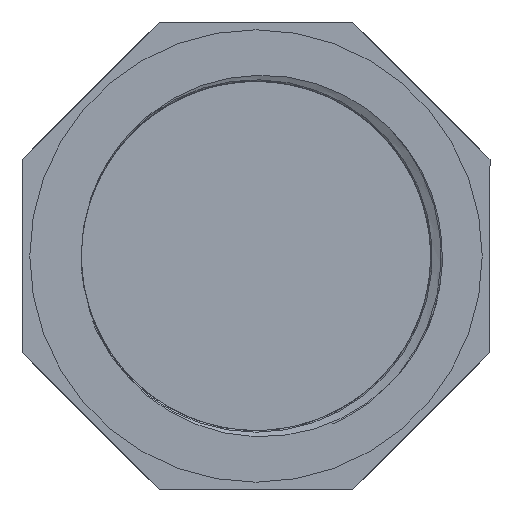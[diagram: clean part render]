
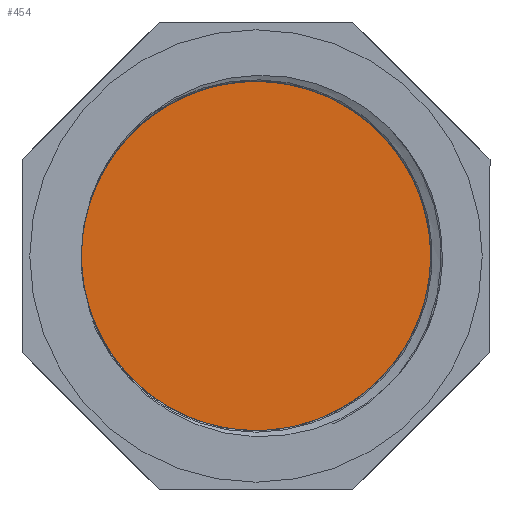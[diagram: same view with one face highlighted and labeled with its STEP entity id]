
A CAD part, front view. The second image highlights one B-rep face of the part: STEP entity #454.
In plain terms, the highlighted planar face has unit normal (0, -1, 0).
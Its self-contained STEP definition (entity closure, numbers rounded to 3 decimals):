
#26=PLANE('',#485);
#123=FACE_OUTER_BOUND('',#154,.T.);
#154=EDGE_LOOP('',(#344));
#184=CIRCLE('',#484,22.423);
#220=VERTEX_POINT('',#4059);
#267=EDGE_CURVE('',#220,#220,#184,.T.);
#344=ORIENTED_EDGE('',*,*,#267,.F.);
#454=ADVANCED_FACE('',(#123),#26,.F.);
#484=AXIS2_PLACEMENT_3D('',#4060,#535,#536);
#485=AXIS2_PLACEMENT_3D('',#4061,#537,#538);
#535=DIRECTION('center_axis',(0.,1.,0.));
#536=DIRECTION('ref_axis',(-1.,0.,0.));
#537=DIRECTION('center_axis',(0.,1.,0.));
#538=DIRECTION('ref_axis',(0.,0.,1.));
#4059=CARTESIAN_POINT('',(22.423,27.,0.));
#4060=CARTESIAN_POINT('Origin',(0.,27.,0.));
#4061=CARTESIAN_POINT('Origin',(0.,27.,0.));
